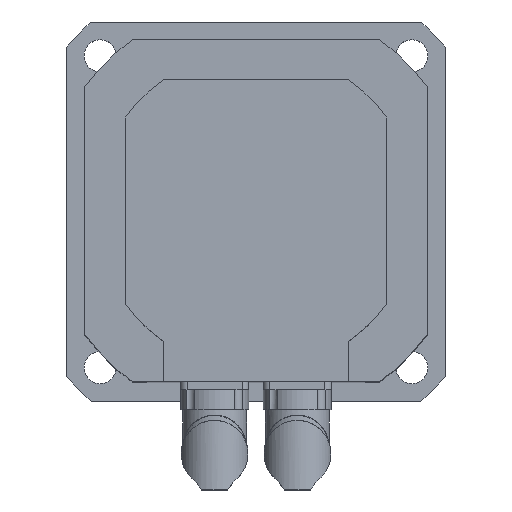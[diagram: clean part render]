
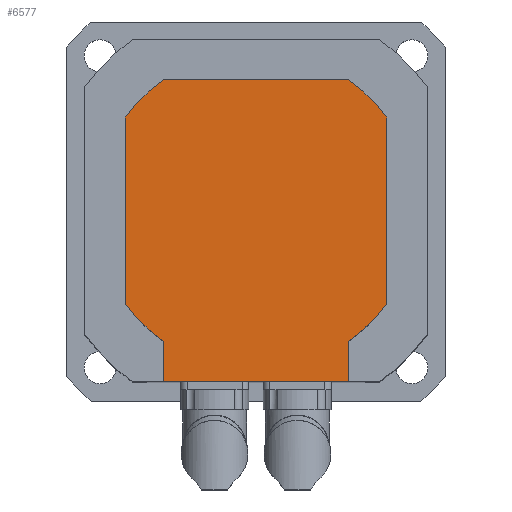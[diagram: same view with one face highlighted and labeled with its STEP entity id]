
A CAD part, top view. The second image highlights one B-rep face of the part: STEP entity #6577.
In plain terms, the highlighted planar face has unit normal (0, 0, 1).
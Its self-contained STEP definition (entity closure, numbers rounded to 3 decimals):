
#5733=CARTESIAN_POINT('',(-49.,-34.627,45.0));
#5734=VERTEX_POINT('',#5733);
#5741=CARTESIAN_POINT('',(-49.,34.627,45.0));
#5742=VERTEX_POINT('',#5741);
#5743=CARTESIAN_POINT('',(-49.,34.627,45.0));
#5744=DIRECTION('',(0.0,-1.0,0.0));
#5745=VECTOR('',#5744,69.253);
#5746=LINE('',#5743,#5745);
#5747=EDGE_CURVE('',#5742,#5734,#5746,.T.);
#5791=CARTESIAN_POINT('',(49.0,34.627,45.0));
#5792=VERTEX_POINT('',#5791);
#5799=CARTESIAN_POINT('',(49.0,-34.627,45.0));
#5800=VERTEX_POINT('',#5799);
#5801=CARTESIAN_POINT('',(49.0,-34.627,45.0));
#5802=DIRECTION('',(0.0,1.0,0.0));
#5803=VECTOR('',#5802,69.253);
#5804=LINE('',#5801,#5803);
#5805=EDGE_CURVE('',#5800,#5792,#5804,.T.);
#6147=CARTESIAN_POINT('',(-34.627,49.0,45.0));
#6148=VERTEX_POINT('',#6147);
#6155=CARTESIAN_POINT('',(34.627,49.0,45.0));
#6156=VERTEX_POINT('',#6155);
#6157=CARTESIAN_POINT('',(34.627,49.0,45.0));
#6158=DIRECTION('',(-1.0,0.0,0.0));
#6159=VECTOR('',#6158,69.253);
#6160=LINE('',#6157,#6159);
#6161=EDGE_CURVE('',#6156,#6148,#6160,.T.);
#6179=CARTESIAN_POINT('',(34.627,-49.0,45.0));
#6180=VERTEX_POINT('',#6179);
#6181=CARTESIAN_POINT('',(0.0,0.0,45.0));
#6182=DIRECTION('',(0.0,0.0,-1.0));
#6183=DIRECTION('',(-1.0,0.0,0.0));
#6184=AXIS2_PLACEMENT_3D('',#6181,#6182,#6183);
#6185=CIRCLE('',#6184,60.0);
#6186=EDGE_CURVE('',#5800,#6180,#6185,.T.);
#6204=CARTESIAN_POINT('',(0.0,0.0,45.0));
#6205=DIRECTION('',(0.0,0.0,-1.0));
#6206=DIRECTION('',(-1.0,0.0,0.0));
#6207=AXIS2_PLACEMENT_3D('',#6204,#6205,#6206);
#6208=CIRCLE('',#6207,60.0);
#6209=EDGE_CURVE('',#6156,#5792,#6208,.T.);
#6222=CARTESIAN_POINT('',(0.0,0.0,45.0));
#6223=DIRECTION('',(0.0,0.0,-1.0));
#6224=DIRECTION('',(-1.0,0.0,0.0));
#6225=AXIS2_PLACEMENT_3D('',#6222,#6223,#6224);
#6226=CIRCLE('',#6225,60.0);
#6227=EDGE_CURVE('',#5742,#6148,#6226,.T.);
#6241=CARTESIAN_POINT('',(-34.627,-49.0,45.0));
#6242=VERTEX_POINT('',#6241);
#6249=CARTESIAN_POINT('',(0.0,0.0,45.0));
#6250=DIRECTION('',(0.0,0.0,-1.0));
#6251=DIRECTION('',(-1.0,0.0,0.0));
#6252=AXIS2_PLACEMENT_3D('',#6249,#6250,#6251);
#6253=CIRCLE('',#6252,60.0);
#6254=EDGE_CURVE('',#6242,#5734,#6253,.T.);
#6265=CARTESIAN_POINT('',(34.627,-64.0,45.0));
#6266=VERTEX_POINT('',#6265);
#6267=CARTESIAN_POINT('',(34.627,-49.0,45.0));
#6268=DIRECTION('',(0.0,-1.0,0.0));
#6269=VECTOR('',#6268,15.0);
#6270=LINE('',#6267,#6269);
#6271=EDGE_CURVE('',#6180,#6266,#6270,.T.);
#6290=CARTESIAN_POINT('',(-34.627,-64.0,45.0));
#6291=VERTEX_POINT('',#6290);
#6298=CARTESIAN_POINT('',(-34.627,-49.0,45.0));
#6299=DIRECTION('',(0.0,-1.0,0.0));
#6300=VECTOR('',#6299,15.0);
#6301=LINE('',#6298,#6300);
#6302=EDGE_CURVE('',#6242,#6291,#6301,.T.);
#6555=CARTESIAN_POINT('',(49.,-64.,45.0));
#6556=DIRECTION('',(0.0,0.0,-1.0));
#6557=DIRECTION('',(-1.0,0.0,0.0));
#6558=AXIS2_PLACEMENT_3D('',#6555,#6556,#6557);
#6559=PLANE('',#6558);
#6560=ORIENTED_EDGE('',*,*,#5747,.T.);
#6561=ORIENTED_EDGE('',*,*,#6254,.F.);
#6562=ORIENTED_EDGE('',*,*,#6302,.T.);
#6563=CARTESIAN_POINT('',(34.627,-64.0,45.0));
#6564=DIRECTION('',(-1.0,0.0,0.0));
#6565=VECTOR('',#6564,69.253);
#6566=LINE('',#6563,#6565);
#6567=EDGE_CURVE('',#6266,#6291,#6566,.T.);
#6568=ORIENTED_EDGE('',*,*,#6567,.F.);
#6569=ORIENTED_EDGE('',*,*,#6271,.F.);
#6570=ORIENTED_EDGE('',*,*,#6186,.F.);
#6571=ORIENTED_EDGE('',*,*,#5805,.T.);
#6572=ORIENTED_EDGE('',*,*,#6209,.F.);
#6573=ORIENTED_EDGE('',*,*,#6161,.T.);
#6574=ORIENTED_EDGE('',*,*,#6227,.F.);
#6575=EDGE_LOOP('',(#6560,#6561,#6562,#6568,#6569,#6570,#6571,#6572,#6573,#6574));
#6576=FACE_OUTER_BOUND('',#6575,.T.);
#6577=ADVANCED_FACE('',(#6576),#6559,.F.);
